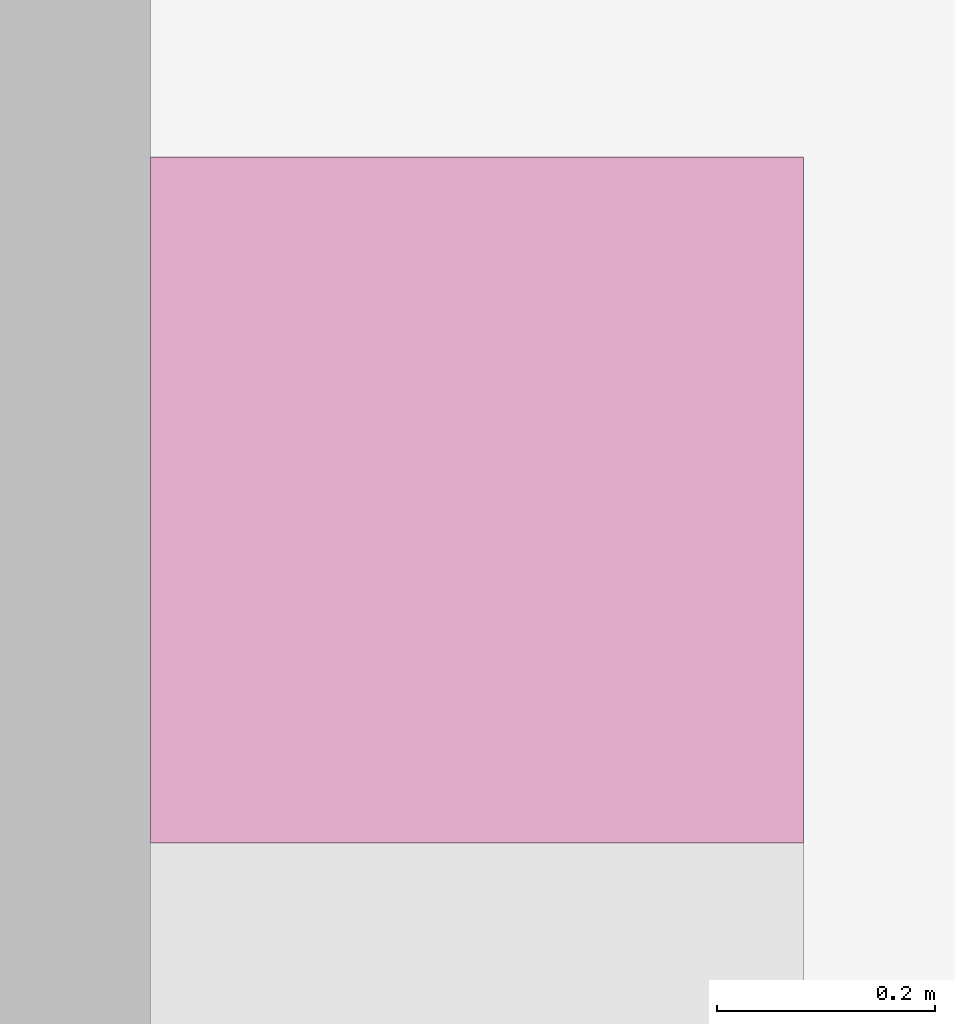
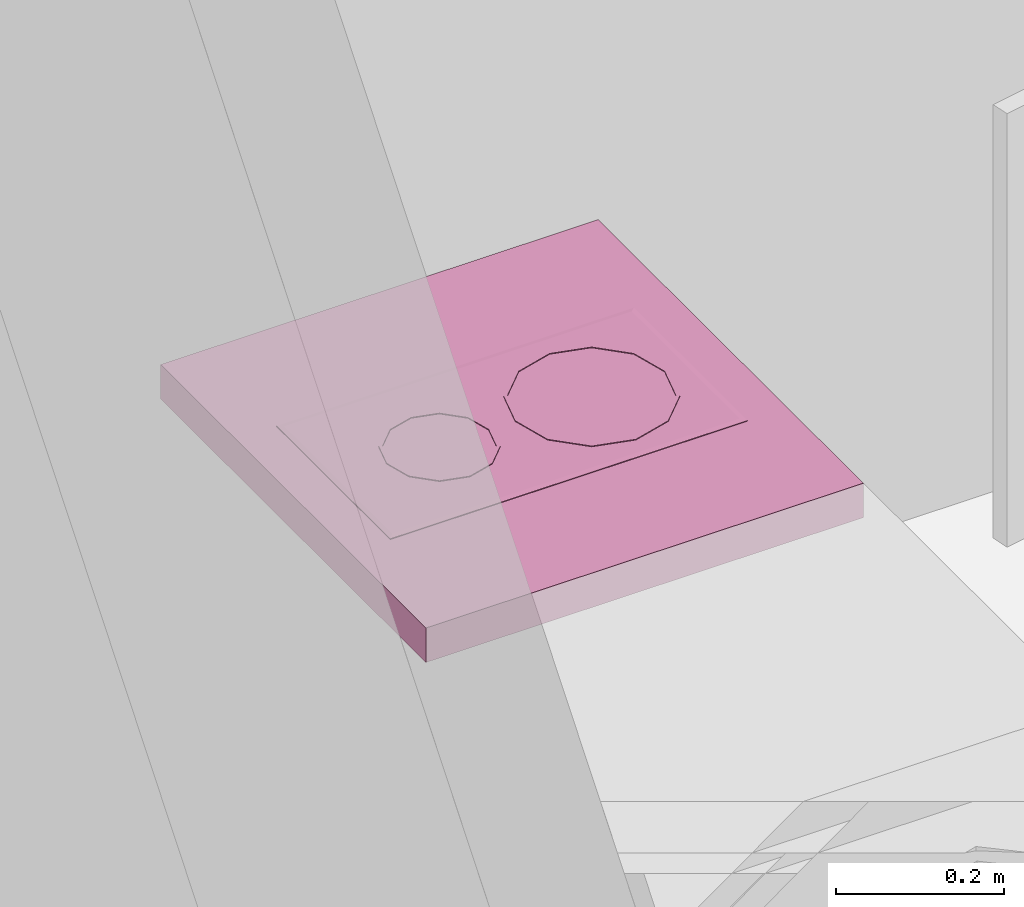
# One storey, part 163 of 172: 1 furnishing.
"""IFC2X3 building model written with IfcOpenShell, lengths in millimetres."""

from ifc_helpers import new_model, entity, si_unit, converted_unit, money_unit, direction, frame, origin_with_axes, place, context, subcontext, project, spatial, faceted_brep, source, transform, mapped, material, material_list, type_object, element, save


model = new_model("IFC2X3")

# Units and contexts
model_context = context("Model", 3, precision=1e-05, world=origin_with_axes(), true_north=direction((0.0, 1.0)))
body_context = subcontext(model_context, "Body", "Model", "MODEL_VIEW")
ifc_project = project(units=[si_unit("LENGTHUNIT", "METRE", prefix="MILLI"), si_unit("AREAUNIT", "SQUARE_METRE"), si_unit("VOLUMEUNIT", "CUBIC_METRE"), converted_unit("PLANEANGLEUNIT", "DEGREE", entity("IfcPlaneAngleMeasure", 0.0174532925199), si_unit("PLANEANGLEUNIT", "RADIAN"), dimensions=[0, 0, 0, 0, 0, 0, 0]), si_unit("SOLIDANGLEUNIT", "STERADIAN"), money_unit("USD"), converted_unit("TIMEUNIT", "Year", entity("IfcTimeMeasure", 31556926.0), si_unit("TIMEUNIT", "SECOND"), dimensions=[0, 0, 0, 0, 0, 0, 0]), si_unit("MASSUNIT", "GRAM"), si_unit("THERMODYNAMICTEMPERATUREUNIT", "DEGREE_CELSIUS"), si_unit("LUMINOUSINTENSITYUNIT", "LUMEN")], contexts=[model_context])

# Site, building, storey
site_placement = place(None, origin_with_axes())
site = spatial("IfcSite", under=ifc_project, at=site_placement, Name="Site", CompositionType="ELEMENT")
building_placement = place(site_placement, origin_with_axes())
building = spatial("IfcBuilding", under=site, at=building_placement, Name="Building", CompositionType="ELEMENT")
storey_placement = place(building_placement, frame((0.0, 0.0, 3200.0), z_axis=(0.0, 0.0, 1.0), x_axis=(1.0, 0.0, 0.0)))
storey = spatial("IfcBuildingStorey", under=building, at=storey_placement, Name="3KORRUS", CompositionType="ELEMENT", Elevation=3200.0)

# Furnishing
ifc_material = material(Name="Background")
ifc_material_list = material_list([ifc_material])
furnishing_element_type = type_object("IfcFurnishingElementType", Name="Built-in Cooktops 19")
shared_shape = source(origin_with_axes(), body_context, "Body", "Brep", [
    faceted_brep([(0.0, 0.0, 850.0), (629.977, 0.0, 850.0), (629.977, 0.0, 900.0), (0.0, 0.0, 900.0), (0.0, 600.0, 850.0), (629.977, 600.0, 850.0), (629.977, 600.0, 900.0), (0.0, 600.0, 900.0)], [[[0, 1, 2, 3]], [[0, 4, 5, 1]], [[1, 5, 6, 2]], [[3, 2, 6, 7]], [[4, 0, 3, 7]], [[5, 4, 7, 6]]]),
    faceted_brep([(179.989, 55.0, 900.0), (179.989, 545.0, 900.0), (449.989, 545.0, 900.0), (449.989, 55.0, 900.0), (179.989, 55.0, 900.8), (179.989, 545.0, 900.8), (449.989, 545.0, 900.8), (449.989, 55.0, 900.8), (186.794, 61.806, 902.0), (186.794, 538.194, 902.0), (443.183, 538.194, 902.0), (443.183, 61.806, 902.0)], [[[0, 1, 2, 3]], [[1, 0, 4, 5]], [[2, 1, 5, 6]], [[3, 2, 6, 7]], [[0, 3, 7, 4]], [[5, 4, 8, 9]], [[6, 5, 9, 10]], [[7, 6, 10, 11]], [[4, 7, 11, 8]], [[10, 9, 8, 11]]]),
    faceted_brep([(209.989, 409.27, 902.0), (224.056, 356.77, 902.0), (224.056, 356.77, 903.0), (209.989, 409.27, 903.0), (224.056, 461.77, 902.0), (262.489, 500.203, 902.0), (314.989, 514.27, 902.0), (367.489, 500.203, 902.0), (405.921, 461.77, 902.0), (419.989, 409.27, 902.0), (405.921, 356.77, 902.0), (367.489, 318.337, 902.0), (314.989, 304.27, 902.0), (262.489, 318.337, 902.0), (214.989, 409.27, 902.0), (228.386, 359.27, 902.0), (264.989, 322.667, 902.0), (314.989, 309.27, 902.0), (364.989, 322.667, 902.0), (401.591, 359.27, 902.0), (414.989, 409.27, 902.0), (401.591, 459.27, 902.0), (364.989, 495.873, 902.0), (314.989, 509.27, 902.0), (264.989, 495.873, 902.0), (228.386, 459.27, 902.0), (262.489, 318.337, 903.0), (314.989, 304.27, 903.0), (367.489, 318.337, 903.0), (405.921, 356.77, 903.0), (419.989, 409.27, 903.0), (405.921, 461.77, 903.0), (367.489, 500.203, 903.0), (314.989, 514.27, 903.0), (262.489, 500.203, 903.0), (224.056, 461.77, 903.0), (214.989, 409.27, 903.0), (228.386, 459.27, 903.0), (264.989, 495.873, 903.0), (314.989, 509.27, 903.0), (364.989, 495.873, 903.0), (401.591, 459.27, 903.0), (414.989, 409.27, 903.0), (401.591, 359.27, 903.0), (364.989, 322.667, 903.0), (314.989, 309.27, 903.0), (264.989, 322.667, 903.0), (228.386, 359.27, 903.0)], [[[0, 1, 2, 3]], [[0, 4, 5, 6, 7, 8, 9, 10, 11, 12, 13, 1], [14, 15, 16, 17, 18, 19, 20, 21, 22, 23, 24, 25]], [[1, 13, 26, 2]], [[3, 2, 26, 27, 28, 29, 30, 31, 32, 33, 34, 35], [36, 37, 38, 39, 40, 41, 42, 43, 44, 45, 46, 47]], [[4, 0, 3, 35]], [[5, 4, 35, 34]], [[6, 5, 34, 33]], [[7, 6, 33, 32]], [[8, 7, 32, 31]], [[9, 8, 31, 30]], [[10, 9, 30, 29]], [[11, 10, 29, 28]], [[12, 11, 28, 27]], [[13, 12, 27, 26]], [[15, 14, 36, 47]], [[16, 15, 47, 46]], [[17, 16, 46, 45]], [[18, 17, 45, 44]], [[19, 18, 44, 43]], [[20, 19, 43, 42]], [[21, 20, 42, 41]], [[22, 21, 41, 40]], [[23, 22, 40, 39]], [[24, 23, 39, 38]], [[25, 24, 38, 37]], [[14, 25, 37, 36]]]),
    faceted_brep([(242.489, 200.53, 902.0), (252.202, 164.28, 902.0), (252.202, 164.28, 903.0), (242.489, 200.53, 903.0), (252.202, 236.78, 902.0), (278.739, 263.317, 902.0), (314.989, 273.03, 902.0), (351.239, 263.317, 902.0), (377.775, 236.78, 902.0), (387.489, 200.53, 902.0), (377.775, 164.28, 902.0), (351.239, 137.743, 902.0), (314.989, 128.03, 902.0), (278.739, 137.743, 902.0), (247.489, 200.53, 902.0), (256.532, 166.78, 902.0), (281.239, 142.073, 902.0), (314.989, 133.03, 902.0), (348.739, 142.073, 902.0), (373.445, 166.78, 902.0), (382.489, 200.53, 902.0), (373.445, 234.28, 902.0), (348.739, 258.987, 902.0), (314.989, 268.03, 902.0), (281.239, 258.987, 902.0), (256.532, 234.28, 902.0), (278.739, 137.743, 903.0), (314.989, 128.03, 903.0), (351.239, 137.743, 903.0), (377.775, 164.28, 903.0), (387.489, 200.53, 903.0), (377.775, 236.78, 903.0), (351.239, 263.317, 903.0), (314.989, 273.03, 903.0), (278.739, 263.317, 903.0), (252.202, 236.78, 903.0), (247.489, 200.53, 903.0), (256.532, 234.28, 903.0), (281.239, 258.987, 903.0), (314.989, 268.03, 903.0), (348.739, 258.987, 903.0), (373.445, 234.28, 903.0), (382.489, 200.53, 903.0), (373.445, 166.78, 903.0), (348.739, 142.073, 903.0), (314.989, 133.03, 903.0), (281.239, 142.073, 903.0), (256.532, 166.78, 903.0)], [[[0, 1, 2, 3]], [[0, 4, 5, 6, 7, 8, 9, 10, 11, 12, 13, 1], [14, 15, 16, 17, 18, 19, 20, 21, 22, 23, 24, 25]], [[1, 13, 26, 2]], [[3, 2, 26, 27, 28, 29, 30, 31, 32, 33, 34, 35], [36, 37, 38, 39, 40, 41, 42, 43, 44, 45, 46, 47]], [[4, 0, 3, 35]], [[5, 4, 35, 34]], [[6, 5, 34, 33]], [[7, 6, 33, 32]], [[8, 7, 32, 31]], [[9, 8, 31, 30]], [[10, 9, 30, 29]], [[11, 10, 29, 28]], [[12, 11, 28, 27]], [[13, 12, 27, 26]], [[15, 14, 36, 47]], [[16, 15, 47, 46]], [[17, 16, 46, 45]], [[18, 17, 45, 44]], [[19, 18, 44, 43]], [[20, 19, 43, 42]], [[21, 20, 42, 41]], [[22, 21, 41, 40]], [[23, 22, 40, 39]], [[24, 23, 39, 38]], [[25, 24, 38, 37]], [[14, 25, 37, 36]]]),
])
furnishing_placement = place(storey_placement, frame((-17840.2967033, -6674.62276834, 0.0), z_axis=(0.0, 0.0, 1.0), x_axis=(0.0, -1.0, 0.0)))
element("IfcFurnishingElement", 1, at=furnishing_placement, inside=storey, type_object=furnishing_element_type, material=ifc_material_list, Name="FU - 007", context=body_context, shape_type="MappedRepresentation", body=[
    mapped(shared_shape, transform((0.0, 0.0, 0.0))),
])

save(model, "model.ifc")
